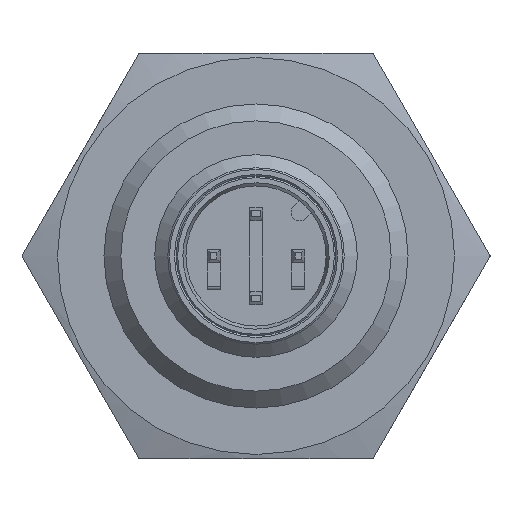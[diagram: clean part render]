
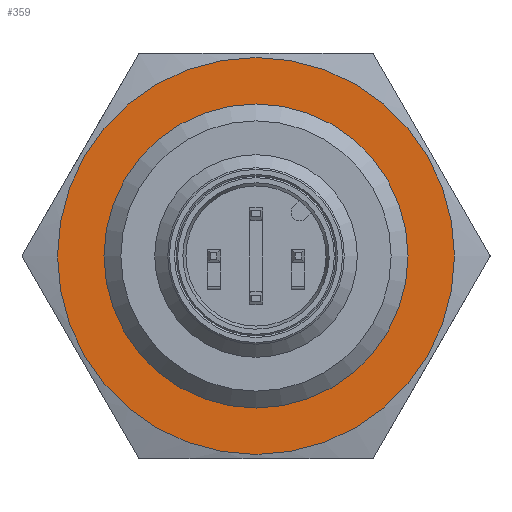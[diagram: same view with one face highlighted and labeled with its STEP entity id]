
A CAD part, left-side view. The second image highlights one B-rep face of the part: STEP entity #359.
In plain terms, the highlighted planar face has unit normal (-1, 0, 0) as drawn and (0, -1, 0) by its records, which use the part's own axes.
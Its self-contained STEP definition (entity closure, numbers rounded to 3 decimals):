
#359 = ADVANCED_FACE( '', ( #748, #749 ), #750, .F. );
#748 = FACE_BOUND( '', #1161, .T. );
#749 = FACE_OUTER_BOUND( '', #1162, .T. );
#750 = PLANE( '', #1163 );
#1161 = EDGE_LOOP( '', ( #2026 ) );
#1162 = EDGE_LOOP( '', ( #2027 ) );
#1163 = AXIS2_PLACEMENT_3D( '', #2028, #2029, #2030 );
#2026 = ORIENTED_EDGE( '', *, *, #2384, .F. );
#2027 = ORIENTED_EDGE( '', *, *, #2669, .T. );
#2028 = CARTESIAN_POINT( '', ( 0., -2., 0. ) );
#2029 = DIRECTION( '', ( 0., 1., 0. ) );
#2030 = DIRECTION( '', ( 0., 0., 1. ) );
#2384 = EDGE_CURVE( '', #2813, #2813, #2814, .T. );
#2669 = EDGE_CURVE( '', #3264, #3264, #3265, .T. );
#2813 = VERTEX_POINT( '', #3451 );
#2814 = CIRCLE( '', #3452, 8.459 );
#3264 = VERTEX_POINT( '', #4184 );
#3265 = CIRCLE( '', #4185, 11.75 );
#3451 = CARTESIAN_POINT( '', ( 8.459, -2., 0. ) );
#3452 = AXIS2_PLACEMENT_3D( '', #4506, #4507, #4508 );
#4184 = CARTESIAN_POINT( '', ( 0., -2., -11.75 ) );
#4185 = AXIS2_PLACEMENT_3D( '', #4841, #4842, #4843 );
#4506 = CARTESIAN_POINT( '', ( 0., -2., 0. ) );
#4507 = DIRECTION( '', ( 0., -1., 0. ) );
#4508 = DIRECTION( '', ( 1., 0., 0. ) );
#4841 = CARTESIAN_POINT( '', ( 0., -2., 0. ) );
#4842 = DIRECTION( '', ( 0., -1., 0. ) );
#4843 = DIRECTION( '', ( 0., 0., -1. ) );
